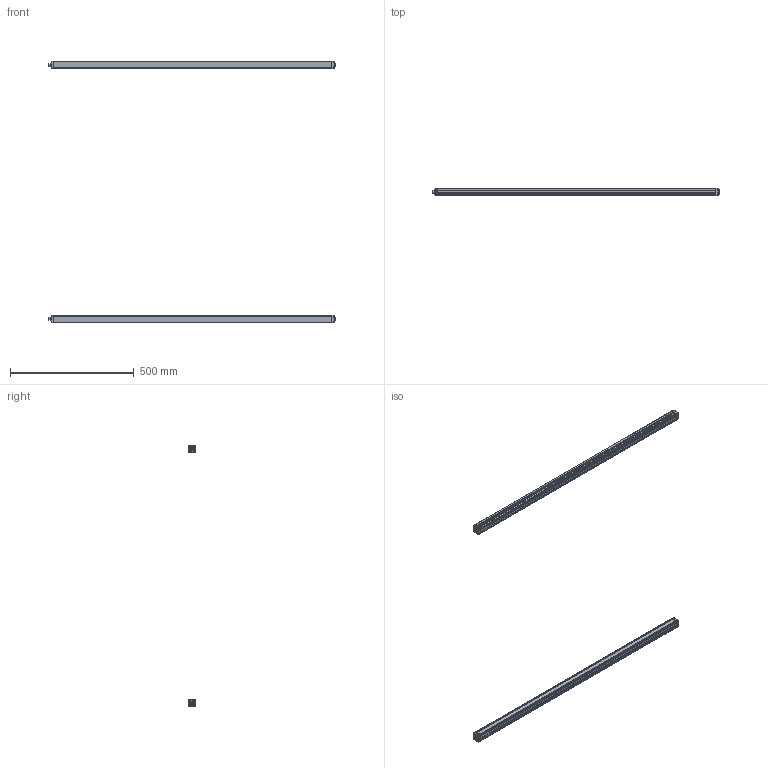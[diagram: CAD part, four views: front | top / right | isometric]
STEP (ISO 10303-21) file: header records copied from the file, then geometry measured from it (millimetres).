
FILE_DESCRIPTION(/* description */ ('CAx-IF Rec.Pracs.---Representation and Presentation of Product Manufacturing Information (PMI)---4.0---2014-10-13','CAx-IF Rec.Pracs.---3D Tessellated Geometry---0.4---2014-09-14','2;1'),/* implementation_level */ '4;1');
FILE_NAME(/* name */ 'THS10-110',/* time_stamp */ '2024-06-14T16:36:24+08:00',/* author */ (''),/* organization */ (' '),/* preprocessor_version */ 'ST-DEVELOPER v16.7',/* originating_system */ $,/* authorisation */ $);
FILE_SCHEMA (('AP242_MANAGED_MODEL_BASED_3D_ENGINEERING_MIM_LF { 1 0 10303 442 20130219 1 4 }'));
Length unit declared in the file: millimetre
Products named in the file (12): THS10-110; THS10-100; 11; 101; 102; 13; 12; ASM0002_ASM; 14; 16
Assembly tree (18 placements, depth 4):
  THS10-110
    THS10-100
      11
      101
      102
      13
      12
      ASM0002_ASM
        14
        16
    THS10-100
      11
      101
      102
      13
      12
      ASM0002_ASM
        14
        16
Bounding box: 1157 x 30.3 x 1058.6 mm (x, y, z)
Volume: 706738.6 mm3; surface area: 763513.5 mm2
Topology: 10 solids, 14 shells, 1080 faces, 3010 edges, 1986 vertices
Faces by surface type: plane 764, cylinder 288, cone 28
Entity records: 18706 total; most frequent: CARTESIAN_POINT 3396, DIRECTION 3125, ORIENTED_EDGE 3006, EDGE_CURVE 1505, LINE 1173, VECTOR 1173, AXIS2_PLACEMENT_3D 1073, VERTEX_POINT 993
